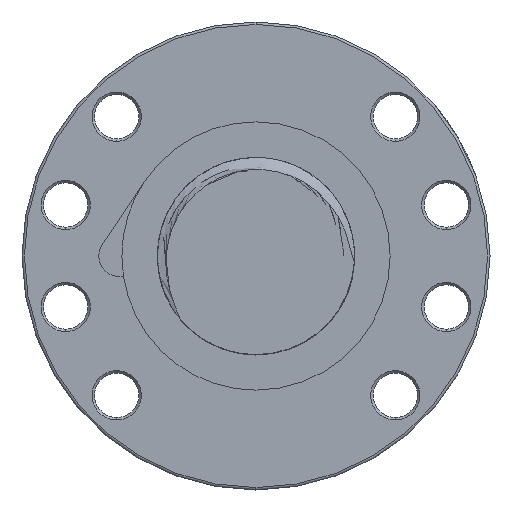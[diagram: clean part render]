
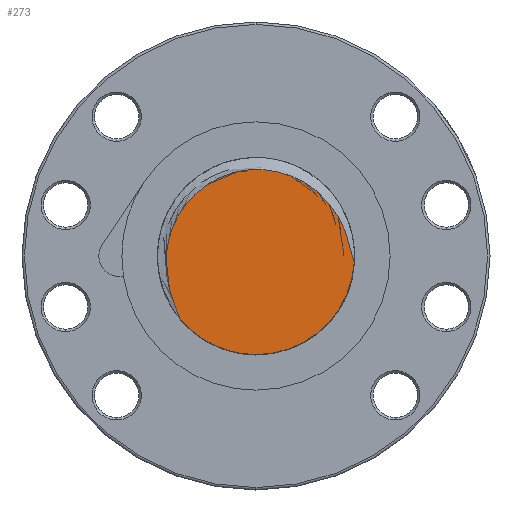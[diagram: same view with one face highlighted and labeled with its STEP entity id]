
A CAD part, left-side view. The second image highlights one B-rep face of the part: STEP entity #273.
In plain terms, the highlighted planar face has unit normal (-1, 0, 0).
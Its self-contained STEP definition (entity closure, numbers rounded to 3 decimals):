
#156 = VERTEX_POINT ( 'NONE', #2817 ) ;
#158 = EDGE_CURVE ( 'NONE', #156, #200, #2815, .T. ) ;
#200 = VERTEX_POINT ( 'NONE', #18250 ) ;
#272 = EDGE_LOOP ( 'NONE', ( #274, #275, #277 ) ) ;
#273 = ADVANCED_FACE ( 'NONE', ( #18354 ), #18348, .F. ) ;
#274 = ORIENTED_EDGE ( 'NONE', *, *, #484, .F. ) ;
#275 = ORIENTED_EDGE ( 'NONE', *, *, #276, .T. ) ;
#276 = EDGE_CURVE ( 'NONE', #485, #200, #18343, .T. ) ;
#277 = ORIENTED_EDGE ( 'NONE', *, *, #158, .F. ) ;
#484 = EDGE_CURVE ( 'NONE', #485, #156, #24331, .T. ) ;
#485 = VERTEX_POINT ( 'NONE', #24327 ) ;
#2811 = DIRECTION ( 'NONE',  ( 0., 1., 0. ) ) ;
#2812 = DIRECTION ( 'NONE',  ( 1., 0., 0. ) ) ;
#2813 = CARTESIAN_POINT ( 'NONE',  ( -128., 0., 0. ) ) ;
#2814 = AXIS2_PLACEMENT_3D ( 'NONE', #2813, #2812, #2811 ) ;
#2815 = CIRCLE ( 'NONE', #2814, 20. ) ;
#2817 = CARTESIAN_POINT ( 'NONE',  ( -128., 0., -20. ) ) ;
#18025 = CARTESIAN_POINT ( 'NONE',  ( -128., -0.836, 17.559 ) ) ;
#18026 = CARTESIAN_POINT ( 'NONE',  ( -128., 0.284, 17.559 ) ) ;
#18027 = CARTESIAN_POINT ( 'NONE',  ( -128., -0.461, 17.567 ) ) ;
#18250 = CARTESIAN_POINT ( 'NONE',  ( -128., 15.359, -12.81 ) ) ;
#18325 = CARTESIAN_POINT ( 'NONE',  ( -128., -12.922, 12.619 ) ) ;
#18326 = CARTESIAN_POINT ( 'NONE',  ( -128., -13.732, 11.851 ) ) ;
#18327 = CARTESIAN_POINT ( 'NONE',  ( -128., -14.238, 11.314 ) ) ;
#18328 = CARTESIAN_POINT ( 'NONE',  ( -128., -15.661, 9.627 ) ) ;
#18329 = CARTESIAN_POINT ( 'NONE',  ( -128., -16.484, 8.407 ) ) ;
#18330 = CARTESIAN_POINT ( 'NONE',  ( -128., -17.355, 6.761 ) ) ;
#18331 = CARTESIAN_POINT ( 'NONE',  ( -128., -17.521, 6.426 ) ) ;
#18332 = CARTESIAN_POINT ( 'NONE',  ( -128., -17.835, 5.75 ) ) ;
#18333 = CARTESIAN_POINT ( 'NONE',  ( -128., -17.983, 5.41 ) ) ;
#18334 = CARTESIAN_POINT ( 'NONE',  ( -128., -18.402, 4.38 ) ) ;
#18335 = CARTESIAN_POINT ( 'NONE',  ( -128., -18.647, 3.682 ) ) ;
#18336 = CARTESIAN_POINT ( 'NONE',  ( -128., -19.081, 2.268 ) ) ;
#18337 = CARTESIAN_POINT ( 'NONE',  ( -128., -19.269, 1.552 ) ) ;
#18338 = CARTESIAN_POINT ( 'NONE',  ( -128., -19.526, 0.469 ) ) ;
#18339 = CARTESIAN_POINT ( 'NONE',  ( -128., -19.608, 0.107 ) ) ;
#18340 = CARTESIAN_POINT ( 'NONE',  ( -128., -19.774, -0.617 ) ) ;
#18341 = CARTESIAN_POINT ( 'NONE',  ( -128., -19.856, -0.979 ) ) ;
#18342 = CARTESIAN_POINT ( 'NONE',  ( -128., -19.955, -1.336 ) ) ;
#18343 = B_SPLINE_CURVE_WITH_KNOTS ( 'NONE', 3,
 ( #18342, #18341, #18340, #18339, #18338, #18337, #18336, #18335, #18334, #18333, #18332, #18331, #18330, #18329, #18328, #18327, #18326, #18325, #18573, #18572, #18571, #18570, #18569, #18568, #18567, #18566, #18565, #18564, #18563, #18562, #18561, #18025, #18027, #18026, #18615, #18609, #18608, #18607, #18614, #18613, #18612, #18611, #18610, #18650, #18649, #18648, #18647, #18646, #18645, #18644, #18643, #18642, #18641, #18640, #18639, #18638, #18637, #18636, #18635, #18634, #18633, #18632, #18631, #18630, #18629, #18628, #18627, #18626, #18625, #18624, #18623, #18622 ),
 .UNSPECIFIED., .F., .F.,
 ( 4, 2, 2, 2, 2, 2, 2, 2, 2, 2, 2, 2, 2, 2, 2, 2, 2, 2, 2, 2, 2, 2, 2, 2, 2, 2, 2, 2, 2, 2, 2, 2, 2, 2, 2, 4 ),
 ( 0.001, 0.002, 0.003, 0.005, 0.007, 0.009, 0.01, 0.014, 0.016, 0.017, 0.019, 0.023, 0.024, 0.025, 0.027, 0.03, 0.031, 0.032, 0.036, 0.039, 0.041, 0.042, 0.043, 0.045, 0.047, 0.049, 0.05, 0.054, 0.056, 0.059, 0.061, 0.063, 0.067, 0.07, 0.071, 0.072 ),
 .UNSPECIFIED. ) ;
#18344 = DIRECTION ( 'NONE',  ( 0., 0., -1. ) ) ;
#18345 = DIRECTION ( 'NONE',  ( 1., 0., 0. ) ) ;
#18346 = CARTESIAN_POINT ( 'NONE',  ( -128., 0., 0. ) ) ;
#18347 = AXIS2_PLACEMENT_3D ( 'NONE', #18346, #18345, #18344 ) ;
#18348 = PLANE ( 'NONE',  #18347 ) ;
#18354 = FACE_OUTER_BOUND ( 'NONE', #272, .T. ) ;
#18561 = CARTESIAN_POINT ( 'NONE',  ( -128., -1.952, 17.503 ) ) ;
#18562 = CARTESIAN_POINT ( 'NONE',  ( -128., -2.687, 17.421 ) ) ;
#18563 = CARTESIAN_POINT ( 'NONE',  ( -128., -4.14, 17.17 ) ) ;
#18564 = CARTESIAN_POINT ( 'NONE',  ( -128., -4.858, 17.001 ) ) ;
#18565 = CARTESIAN_POINT ( 'NONE',  ( -128., -5.923, 16.682 ) ) ;
#18566 = CARTESIAN_POINT ( 'NONE',  ( -128., -6.276, 16.564 ) ) ;
#18567 = CARTESIAN_POINT ( 'NONE',  ( -128., -6.978, 16.308 ) ) ;
#18568 = CARTESIAN_POINT ( 'NONE',  ( -128., -7.325, 16.169 ) ) ;
#18569 = CARTESIAN_POINT ( 'NONE',  ( -128., -9.029, 15.429 ) ) ;
#18570 = CARTESIAN_POINT ( 'NONE',  ( -128., -10.302, 14.689 ) ) ;
#18571 = CARTESIAN_POINT ( 'NONE',  ( -128., -11.783, 13.581 ) ) ;
#18572 = CARTESIAN_POINT ( 'NONE',  ( -128., -12.073, 13.35 ) ) ;
#18573 = CARTESIAN_POINT ( 'NONE',  ( -128., -12.643, 12.87 ) ) ;
#18607 = CARTESIAN_POINT ( 'NONE',  ( -128., 6.087, 16.45 ) ) ;
#18608 = CARTESIAN_POINT ( 'NONE',  ( -128., 3.953, 17.14 ) ) ;
#18609 = CARTESIAN_POINT ( 'NONE',  ( -128., 2.502, 17.415 ) ) ;
#18610 = CARTESIAN_POINT ( 'NONE',  ( -128., 10.027, 14.417 ) ) ;
#18611 = CARTESIAN_POINT ( 'NONE',  ( -128., 9.717, 14.621 ) ) ;
#18612 = CARTESIAN_POINT ( 'NONE',  ( -128., 8.773, 15.205 ) ) ;
#18613 = CARTESIAN_POINT ( 'NONE',  ( -128., 8.123, 15.555 ) ) ;
#18614 = CARTESIAN_POINT ( 'NONE',  ( -128., 6.781, 16.177 ) ) ;
#18615 = CARTESIAN_POINT ( 'NONE',  ( -128., 0.656, 17.544 ) ) ;
#18622 = CARTESIAN_POINT ( 'NONE',  ( -128., 15.359, -12.81 ) ) ;
#18623 = CARTESIAN_POINT ( 'NONE',  ( -128., 15.489, -12.461 ) ) ;
#18624 = CARTESIAN_POINT ( 'NONE',  ( -128., 15.637, -12.118 ) ) ;
#18625 = CARTESIAN_POINT ( 'NONE',  ( -128., 15.93, -11.432 ) ) ;
#18626 = CARTESIAN_POINT ( 'NONE',  ( -128., 16.077, -11.09 ) ) ;
#18627 = CARTESIAN_POINT ( 'NONE',  ( -128., 16.507, -10.057 ) ) ;
#18628 = CARTESIAN_POINT ( 'NONE',  ( -128., 16.778, -9.36 ) ) ;
#18629 = CARTESIAN_POINT ( 'NONE',  ( -128., 17.499, -7.247 ) ) ;
#18630 = CARTESIAN_POINT ( 'NONE',  ( -128., 17.861, -5.812 ) ) ;
#18631 = CARTESIAN_POINT ( 'NONE',  ( -128., 18.174, -3.607 ) ) ;
#18632 = CARTESIAN_POINT ( 'NONE',  ( -128., 18.241, -2.86 ) ) ;
#18633 = CARTESIAN_POINT ( 'NONE',  ( -128., 18.29, -1.372 ) ) ;
#18634 = CARTESIAN_POINT ( 'NONE',  ( -128., 18.275, -0.632 ) ) ;
#18635 = CARTESIAN_POINT ( 'NONE',  ( -128., 18.163, 0.841 ) ) ;
#18636 = CARTESIAN_POINT ( 'NONE',  ( -128., 18.066, 1.575 ) ) ;
#18637 = CARTESIAN_POINT ( 'NONE',  ( -128., 17.79, 3.034 ) ) ;
#18638 = CARTESIAN_POINT ( 'NONE',  ( -128., 17.609, 3.764 ) ) ;
#18639 = CARTESIAN_POINT ( 'NONE',  ( -128., 16.946, 5.891 ) ) ;
#18640 = CARTESIAN_POINT ( 'NONE',  ( -128., 16.344, 7.239 ) ) ;
#18641 = CARTESIAN_POINT ( 'NONE',  ( -128., 15.391, 8.838 ) ) ;
#18642 = CARTESIAN_POINT ( 'NONE',  ( -128., 15.19, 9.154 ) ) ;
#18643 = CARTESIAN_POINT ( 'NONE',  ( -128., 14.771, 9.771 ) ) ;
#18644 = CARTESIAN_POINT ( 'NONE',  ( -128., 14.553, 10.072 ) ) ;
#18645 = CARTESIAN_POINT ( 'NONE',  ( -128., 13.876, 10.953 ) ) ;
#18646 = CARTESIAN_POINT ( 'NONE',  ( -128., 13.392, 11.511 ) ) ;
#18647 = CARTESIAN_POINT ( 'NONE',  ( -128., 12.359, 12.567 ) ) ;
#18648 = CARTESIAN_POINT ( 'NONE',  ( -128., 11.81, 13.064 ) ) ;
#18649 = CARTESIAN_POINT ( 'NONE',  ( -128., 10.934, 13.764 ) ) ;
#18650 = CARTESIAN_POINT ( 'NONE',  ( -128., 10.635, 13.989 ) ) ;
#24327 = CARTESIAN_POINT ( 'NONE',  ( -128., -19.955, -1.336 ) ) ;
#24328 = DIRECTION ( 'NONE',  ( 0., 1., 0. ) ) ;
#24329 = DIRECTION ( 'NONE',  ( 1., 0., 0. ) ) ;
#24330 = AXIS2_PLACEMENT_3D ( 'NONE', #24387, #24329, #24328 ) ;
#24331 = CIRCLE ( 'NONE', #24330, 20. ) ;
#24387 = CARTESIAN_POINT ( 'NONE',  ( -128., 0., 0. ) ) ;
